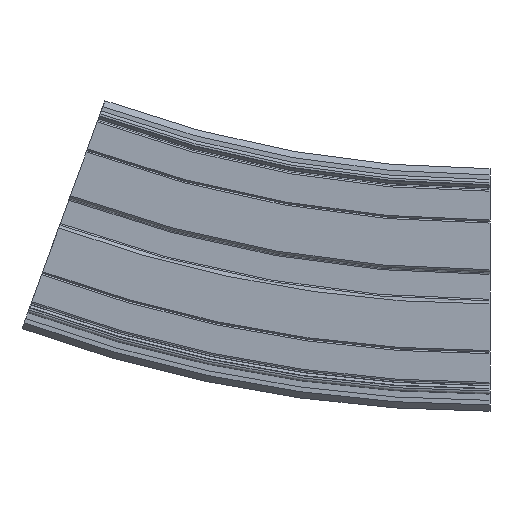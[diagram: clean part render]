
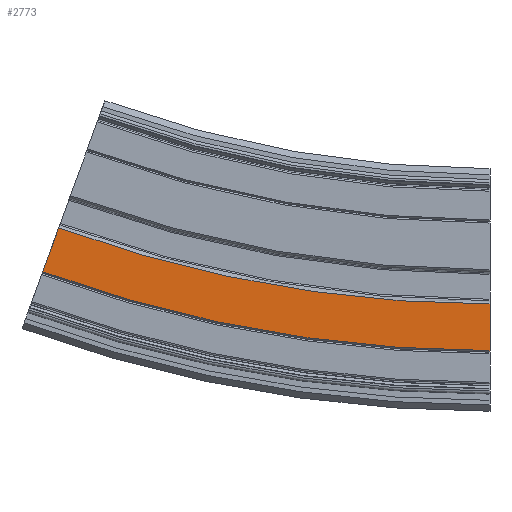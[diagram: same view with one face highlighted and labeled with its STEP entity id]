
A CAD part, left-side view. The second image highlights one B-rep face of the part: STEP entity #2773.
In plain terms, the highlighted planar face has unit normal (-1, 0, 0).
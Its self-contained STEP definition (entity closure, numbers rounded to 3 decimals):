
#267=CIRCLE('',#3020,405.5);
#268=CIRCLE('',#3022,420.5);
#442=FACE_OUTER_BOUND('',#596,.T.);
#596=EDGE_LOOP('',(#2171,#2172,#2173,#2174));
#773=LINE('',#9166,#979);
#774=LINE('',#9168,#980);
#979=VECTOR('',#3622,10.);
#980=VECTOR('',#3623,10.);
#1235=VERTEX_POINT('',#9159);
#1236=VERTEX_POINT('',#9161);
#1237=VERTEX_POINT('',#9165);
#1238=VERTEX_POINT('',#9167);
#1602=EDGE_CURVE('',#1235,#1236,#267,.T.);
#1603=EDGE_CURVE('',#1237,#1235,#773,.T.);
#1604=EDGE_CURVE('',#1238,#1236,#774,.T.);
#1605=EDGE_CURVE('',#1237,#1238,#268,.T.);
#2171=ORIENTED_EDGE('',*,*,#1603,.T.);
#2172=ORIENTED_EDGE('',*,*,#1602,.T.);
#2173=ORIENTED_EDGE('',*,*,#1604,.F.);
#2174=ORIENTED_EDGE('',*,*,#1605,.F.);
#2663=PLANE('',#3021);
#2773=ADVANCED_FACE('',(#442),#2663,.T.);
#3020=AXIS2_PLACEMENT_3D('',#9163,#3618,#3619);
#3021=AXIS2_PLACEMENT_3D('',#9164,#3620,#3621);
#3022=AXIS2_PLACEMENT_3D('',#9169,#3624,#3625);
#3618=DIRECTION('center_axis',(1.,0.,0.));
#3619=DIRECTION('ref_axis',(0.,0.,
-1.));
#3620=DIRECTION('center_axis',(-1.,0.,0.));
#3621=DIRECTION('ref_axis',(0.,0.,1.));
#3622=DIRECTION('',(0.,0.,1.));
#3623=DIRECTION('',(0.,-0.342,0.94));
#3624=DIRECTION('center_axis',(1.,0.,0.));
#3625=DIRECTION('ref_axis',(0.,0.,
-1.));
#9159=CARTESIAN_POINT('',(-32.,0.,-5.5));
#9161=CARTESIAN_POINT('',(-32.,138.689,18.955));
#9163=CARTESIAN_POINT('Origin',(-32.,0.,400.));
#9164=CARTESIAN_POINT('Origin',(-32.,0.,-20.5));
#9165=CARTESIAN_POINT('',(-32.,0.,-20.5));
#9166=CARTESIAN_POINT('',(-32.,0.,-20.5));
#9167=CARTESIAN_POINT('',(-32.,143.819,4.859));
#9168=CARTESIAN_POINT('',(-32.,143.819,4.859));
#9169=CARTESIAN_POINT('Origin',(-32.,0.,
400.));
